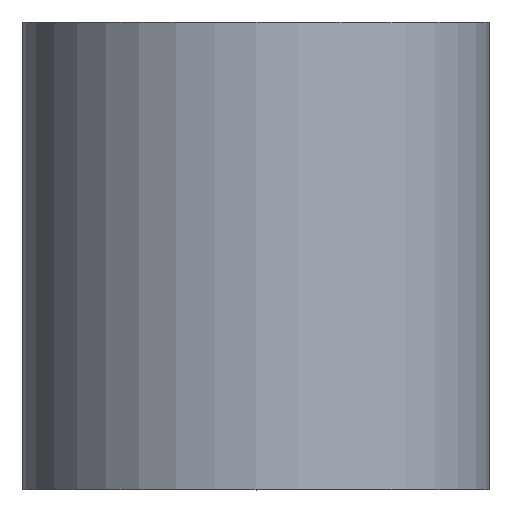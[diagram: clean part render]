
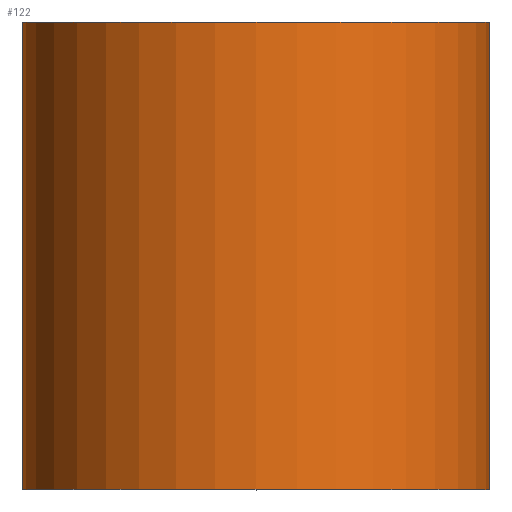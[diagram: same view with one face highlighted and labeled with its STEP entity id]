
A CAD part, top view. The second image highlights one B-rep face of the part: STEP entity #122.
In plain terms, the highlighted cylindrical face has radius 5 mm (diameter 10 mm), a partial arc.
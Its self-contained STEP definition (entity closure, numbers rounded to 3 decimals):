
#5 = LINE ( 'NONE', #202, #175 ) ;
#7 = DIRECTION ( 'NONE',  ( -1., 0., 0. ) ) ;
#23 = EDGE_CURVE ( 'NONE', #267, #151, #190, .T. ) ;
#29 = CIRCLE ( 'NONE', #135, 5. ) ;
#30 = ORIENTED_EDGE ( 'NONE', *, *, #56, .F. ) ;
#37 = CARTESIAN_POINT ( 'NONE',  ( -5., 10., 0. ) ) ;
#45 = EDGE_CURVE ( 'NONE', #98, #267, #205, .T. ) ;
#47 = DIRECTION ( 'NONE',  ( -1., 0., 0. ) ) ;
#56 = EDGE_CURVE ( 'NONE', #98, #204, #5, .T. ) ;
#72 = CYLINDRICAL_SURFACE ( 'NONE', #87, 5. ) ;
#87 = AXIS2_PLACEMENT_3D ( 'NONE', #199, #298, #181 ) ;
#89 = CARTESIAN_POINT ( 'NONE',  ( 5., 0., 0. ) ) ;
#98 = VERTEX_POINT ( 'NONE', #201 ) ;
#99 = CARTESIAN_POINT ( 'NONE',  ( 5., 10., 0. ) ) ;
#115 = FACE_OUTER_BOUND ( 'NONE', #273, .T. ) ;
#118 = DIRECTION ( 'NONE',  ( 0., 1., 0. ) ) ;
#122 = ADVANCED_FACE ( 'NONE', ( #115 ), #72, .T. ) ;
#133 = VECTOR ( 'NONE', #185, 1000. ) ;
#135 = AXIS2_PLACEMENT_3D ( 'NONE', #214, #216, #7 ) ;
#141 = CARTESIAN_POINT ( 'NONE',  ( 0., 0., 0. ) ) ;
#151 = VERTEX_POINT ( 'NONE', #99 ) ;
#175 = VECTOR ( 'NONE', #118, 1000. ) ;
#181 = DIRECTION ( 'NONE',  ( -1., 0., 0. ) ) ;
#185 = DIRECTION ( 'NONE',  ( 0., 1., 0. ) ) ;
#190 = LINE ( 'NONE', #225, #133 ) ;
#199 = CARTESIAN_POINT ( 'NONE',  ( 0., 0., 0. ) ) ;
#201 = CARTESIAN_POINT ( 'NONE',  ( -5., 0., 0. ) ) ;
#202 = CARTESIAN_POINT ( 'NONE',  ( -5., 0., 0. ) ) ;
#204 = VERTEX_POINT ( 'NONE', #37 ) ;
#205 = CIRCLE ( 'NONE', #294, 5. ) ;
#213 = ORIENTED_EDGE ( 'NONE', *, *, #23, .T. ) ;
#214 = CARTESIAN_POINT ( 'NONE',  ( 0., 10., 0. ) ) ;
#216 = DIRECTION ( 'NONE',  ( 0., 1., 0. ) ) ;
#220 = ORIENTED_EDGE ( 'NONE', *, *, #45, .T. ) ;
#222 = ORIENTED_EDGE ( 'NONE', *, *, #280, .F. ) ;
#225 = CARTESIAN_POINT ( 'NONE',  ( 5., 0., 0. ) ) ;
#267 = VERTEX_POINT ( 'NONE', #89 ) ;
#273 = EDGE_LOOP ( 'NONE', ( #220, #213, #222, #30 ) ) ;
#280 = EDGE_CURVE ( 'NONE', #204, #151, #29, .T. ) ;
#294 = AXIS2_PLACEMENT_3D ( 'NONE', #141, #297, #47 ) ;
#297 = DIRECTION ( 'NONE',  ( 0., 1., 0. ) ) ;
#298 = DIRECTION ( 'NONE',  ( 0., 1., 0. ) ) ;
